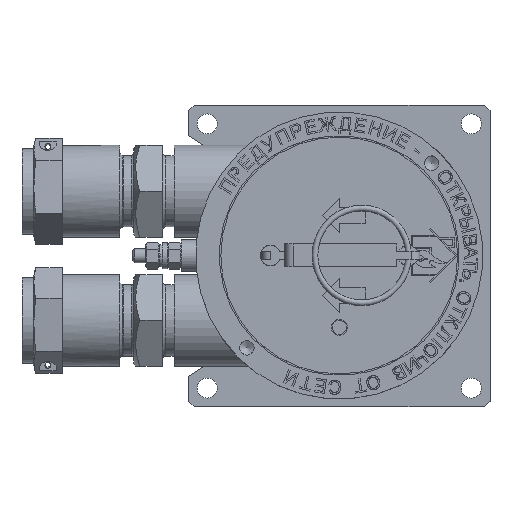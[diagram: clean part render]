
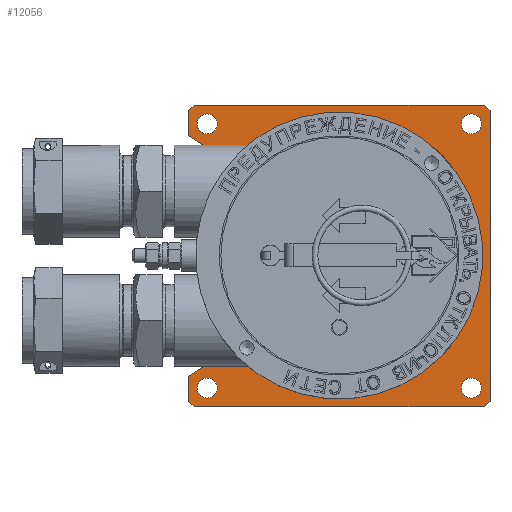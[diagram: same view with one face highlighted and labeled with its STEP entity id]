
A CAD part, top view. The second image highlights one B-rep face of the part: STEP entity #12056.
In plain terms, the highlighted planar face has unit normal (0, 0, 1).
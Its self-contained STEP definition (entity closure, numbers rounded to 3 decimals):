
#12056=ADVANCED_FACE('',(#23400,#23402,#23404,#23406,#23408,#23410),#23412,.F.);
#23400=FACE_BOUND('',#23401,.T.);
#23401=EDGE_LOOP('',(#32513,#32514,#32515,#32516,#32517,#32518,#32519,#32520,#32521,
#32522,#32523,#32524,#32525,#32526));
#23402=FACE_BOUND('',#23403,.T.);
#23403=EDGE_LOOP('',(#32527));
#23404=FACE_BOUND('',#23405,.T.);
#23405=EDGE_LOOP('',(#32528));
#23406=FACE_BOUND('',#23407,.T.);
#23407=EDGE_LOOP('',(#32529));
#23408=FACE_BOUND('',#23409,.T.);
#23409=EDGE_LOOP('',(#32530));
#23410=FACE_BOUND('',#23411,.T.);
#23411=EDGE_LOOP('',(#32531));
#23412=PLANE('',#23413);
#23413=AXIS2_PLACEMENT_3D('',#23414,#23415,#23416);
#23414=CARTESIAN_POINT('',(-0.053,0.,0.));
#23415=DIRECTION('',(0.,0.,-1.));
#23416=DIRECTION('',(-1.,0.,0.));
#32513=ORIENTED_EDGE('',*,*,#36898,.F.);
#32514=ORIENTED_EDGE('',*,*,#36899,.F.);
#32515=ORIENTED_EDGE('',*,*,#36900,.F.);
#32516=ORIENTED_EDGE('',*,*,#36901,.F.);
#32517=ORIENTED_EDGE('',*,*,#36902,.F.);
#32518=ORIENTED_EDGE('',*,*,#36903,.F.);
#32519=ORIENTED_EDGE('',*,*,#36904,.F.);
#32520=ORIENTED_EDGE('',*,*,#36905,.F.);
#32521=ORIENTED_EDGE('',*,*,#36906,.F.);
#32522=ORIENTED_EDGE('',*,*,#36907,.F.);
#32523=ORIENTED_EDGE('',*,*,#36908,.F.);
#32524=ORIENTED_EDGE('',*,*,#36909,.F.);
#32525=ORIENTED_EDGE('',*,*,#36910,.F.);
#32526=ORIENTED_EDGE('',*,*,#36911,.F.);
#32527=ORIENTED_EDGE('',*,*,#36897,.F.);
#32528=ORIENTED_EDGE('',*,*,#36912,.T.);
#32529=ORIENTED_EDGE('',*,*,#36913,.T.);
#32530=ORIENTED_EDGE('',*,*,#36914,.T.);
#32531=ORIENTED_EDGE('',*,*,#36915,.T.);
#36897=EDGE_CURVE('',#43430,#43430,#43431,.F.);
#36898=EDGE_CURVE('',#43432,#43433,#43434,.T.);
#36899=EDGE_CURVE('',#43435,#43432,#43436,.T.);
#36900=EDGE_CURVE('',#43437,#43435,#43438,.T.);
#36901=EDGE_CURVE('',#43439,#43437,#43440,.T.);
#36902=EDGE_CURVE('',#43441,#43439,#43442,.T.);
#36903=EDGE_CURVE('',#43443,#43441,#43444,.T.);
#36904=EDGE_CURVE('',#43445,#43443,#43446,.T.);
#36905=EDGE_CURVE('',#43447,#43445,#43448,.T.);
#36906=EDGE_CURVE('',#43449,#43447,#43450,.T.);
#36907=EDGE_CURVE('',#43451,#43449,#43452,.T.);
#36908=EDGE_CURVE('',#43453,#43451,#43454,.T.);
#36909=EDGE_CURVE('',#43455,#43453,#43456,.T.);
#36910=EDGE_CURVE('',#43457,#43455,#43458,.T.);
#36911=EDGE_CURVE('',#43433,#43457,#43459,.T.);
#36912=EDGE_CURVE('',#43460,#43460,#43461,.T.);
#36913=EDGE_CURVE('',#43462,#43462,#43463,.T.);
#36914=EDGE_CURVE('',#43464,#43464,#43465,.T.);
#36915=EDGE_CURVE('',#43466,#43466,#43467,.T.);
#43430=VERTEX_POINT('',#61809);
#43431=CIRCLE('',#61810,4.5);
#43432=VERTEX_POINT('',#61814);
#43433=VERTEX_POINT('',#61815);
#43434=LINE('',#61816,#61817);
#43435=VERTEX_POINT('',#61819);
#43436=LINE('',#61820,#61821);
#43437=VERTEX_POINT('',#61823);
#43438=LINE('',#61824,#61825);
#43439=VERTEX_POINT('',#61827);
#43440=LINE('',#61828,#61829);
#43441=VERTEX_POINT('',#61831);
#43442=LINE('',#61832,#61833);
#43443=VERTEX_POINT('',#61835);
#43444=LINE('',#61836,#61837);
#43445=VERTEX_POINT('',#61839);
#43446=CIRCLE('',#61840,5.);
#43447=VERTEX_POINT('',#61844);
#43448=CIRCLE('',#61845,46.);
#43449=VERTEX_POINT('',#61849);
#43450=CIRCLE('',#61850,5.);
#43451=VERTEX_POINT('',#61854);
#43452=LINE('',#61855,#61856);
#43453=VERTEX_POINT('',#61858);
#43454=LINE('',#61859,#61860);
#43455=VERTEX_POINT('',#61862);
#43456=LINE('',#61863,#61864);
#43457=VERTEX_POINT('',#61866);
#43458=LINE('',#61867,#61868);
#43459=LINE('',#61870,#61871);
#43460=VERTEX_POINT('',#61873);
#43461=CIRCLE('',#61874,3.5);
#43462=VERTEX_POINT('',#61878);
#43463=CIRCLE('',#61879,3.5);
#43464=VERTEX_POINT('',#61883);
#43465=CIRCLE('',#61884,3.5);
#43466=VERTEX_POINT('',#61888);
#43467=CIRCLE('',#61889,3.5);
#61809=CARTESIAN_POINT('',(40.5,0.,0.));
#61810=AXIS2_PLACEMENT_3D('',#61811,#61812,#61813);
#61811=CARTESIAN_POINT('',(36.,0.,0.));
#61812=DIRECTION('',(0.,0.,-1.));
#61813=DIRECTION('',(1.,0.,0.));
#61814=CARTESIAN_POINT('',(52.5,50.5,0.));
#61815=CARTESIAN_POINT('',(52.5,-50.5,0.));
#61816=CARTESIAN_POINT('',(52.5,50.5,0.));
#61817=VECTOR('',#61818,1.);
#61818=DIRECTION('',(0.,-1.,0.));
#61819=CARTESIAN_POINT('',(50.5,52.5,0.));
#61820=CARTESIAN_POINT('',(50.5,52.5,0.));
#61821=VECTOR('',#61822,1.);
#61822=DIRECTION('',(0.707,-0.707,0.));
#61823=CARTESIAN_POINT('',(-50.5,52.5,0.));
#61824=CARTESIAN_POINT('',(-50.5,52.5,0.));
#61825=VECTOR('',#61826,1.);
#61826=DIRECTION('',(1.,0.,0.));
#61827=CARTESIAN_POINT('',(-52.5,50.5,0.));
#61828=CARTESIAN_POINT('',(-52.5,50.5,0.));
#61829=VECTOR('',#61830,1.);
#61830=DIRECTION('',(0.707,0.707,0.));
#61831=CARTESIAN_POINT('',(-52.5,42.,0.));
#61832=CARTESIAN_POINT('',(-52.5,42.,0.));
#61833=VECTOR('',#61834,1.);
#61834=DIRECTION('',(0.,1.,0.));
#61835=CARTESIAN_POINT('',(-39.225,33.046,0.));
#61836=CARTESIAN_POINT('',(-39.225,33.046,0.));
#61837=VECTOR('',#61838,1.);
#61838=DIRECTION('',(-0.829,0.559,0.));
#61839=CARTESIAN_POINT('',(-37.901,26.067,0.));
#61840=AXIS2_PLACEMENT_3D('',#61841,#61842,#61843);
#61841=CARTESIAN_POINT('',(-42.021,28.901,0.));
#61842=DIRECTION('',(0.,0.,1.));
#61843=DIRECTION('',(0.824,-0.567,0.));
#61844=CARTESIAN_POINT('',(-37.901,-26.067,0.));
#61845=AXIS2_PLACEMENT_3D('',#61846,#61847,#61848);
#61846=CARTESIAN_POINT('',(0.,0.,0.));
#61847=DIRECTION('',(0.,0.,-1.));
#61848=DIRECTION('',(-0.824,-0.567,0.));
#61849=CARTESIAN_POINT('',(-39.225,-33.046,0.));
#61850=AXIS2_PLACEMENT_3D('',#61851,#61852,#61853);
#61851=CARTESIAN_POINT('',(-42.021,-28.901,0.));
#61852=DIRECTION('',(0.,0.,1.));
#61853=DIRECTION('',(0.559,-0.829,0.));
#61854=CARTESIAN_POINT('',(-52.5,-42.,0.));
#61855=CARTESIAN_POINT('',(-52.5,-42.,0.));
#61856=VECTOR('',#61857,1.);
#61857=DIRECTION('',(0.829,0.559,0.));
#61858=CARTESIAN_POINT('',(-52.5,-50.5,0.));
#61859=CARTESIAN_POINT('',(-52.5,-50.5,0.));
#61860=VECTOR('',#61861,1.);
#61861=DIRECTION('',(0.,1.,0.));
#61862=CARTESIAN_POINT('',(-50.5,-52.5,0.));
#61863=CARTESIAN_POINT('',(-50.5,-52.5,0.));
#61864=VECTOR('',#61865,1.);
#61865=DIRECTION('',(-0.707,0.707,0.));
#61866=CARTESIAN_POINT('',(50.5,-52.5,0.));
#61867=CARTESIAN_POINT('',(50.5,-52.5,0.));
#61868=VECTOR('',#61869,1.);
#61869=DIRECTION('',(-1.,0.,0.));
#61870=CARTESIAN_POINT('',(52.5,-50.5,0.));
#61871=VECTOR('',#61872,1.);
#61872=DIRECTION('',(-0.707,-0.707,0.));
#61873=CARTESIAN_POINT('',(42.5,46.,0.));
#61874=AXIS2_PLACEMENT_3D('',#61875,#61876,#61877);
#61875=CARTESIAN_POINT('',(46.,46.,0.));
#61876=DIRECTION('',(0.,0.,-1.));
#61877=DIRECTION('',(-1.,0.,0.));
#61878=CARTESIAN_POINT('',(42.5,-46.,0.));
#61879=AXIS2_PLACEMENT_3D('',#61880,#61881,#61882);
#61880=CARTESIAN_POINT('',(46.,-46.,0.));
#61881=DIRECTION('',(0.,0.,-1.));
#61882=DIRECTION('',(-1.,0.,0.));
#61883=CARTESIAN_POINT('',(-49.5,-46.,0.));
#61884=AXIS2_PLACEMENT_3D('',#61885,#61886,#61887);
#61885=CARTESIAN_POINT('',(-46.,-46.,0.));
#61886=DIRECTION('',(0.,0.,-1.));
#61887=DIRECTION('',(-1.,0.,0.));
#61888=CARTESIAN_POINT('',(-49.5,46.,0.));
#61889=AXIS2_PLACEMENT_3D('',#61890,#61891,#61892);
#61890=CARTESIAN_POINT('',(-46.,46.,0.));
#61891=DIRECTION('',(0.,0.,-1.));
#61892=DIRECTION('',(-1.,0.,0.));
